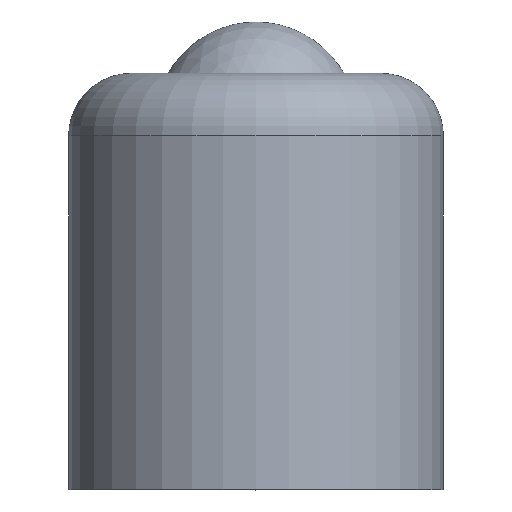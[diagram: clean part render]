
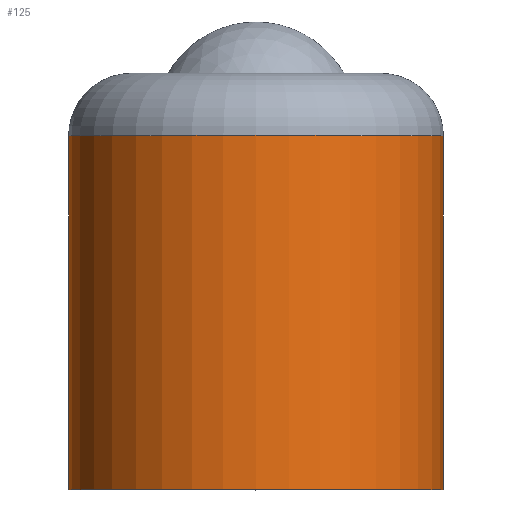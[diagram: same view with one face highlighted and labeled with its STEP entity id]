
A CAD part, top view. The second image highlights one B-rep face of the part: STEP entity #125.
In plain terms, the highlighted cylindrical face has radius 9 mm (diameter 18 mm), a full revolution.
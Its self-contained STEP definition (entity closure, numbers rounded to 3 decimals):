
#15=CYLINDRICAL_SURFACE('',#148,9.);
#32=FACE_BOUND('',#62,.T.);
#42=FACE_OUTER_BOUND('',#61,.T.);
#61=EDGE_LOOP('',(#111));
#62=EDGE_LOOP('',(#112));
#67=CIRCLE('',#135,9.);
#73=CIRCLE('',#147,9.);
#77=VERTEX_POINT('',#204);
#83=VERTEX_POINT('',#222);
#87=EDGE_CURVE('',#77,#77,#67,.T.);
#93=EDGE_CURVE('',#83,#83,#73,.T.);
#111=ORIENTED_EDGE('',*,*,#93,.T.);
#112=ORIENTED_EDGE('',*,*,#87,.F.);
#125=ADVANCED_FACE('',(#42,#32),#15,.T.);
#135=AXIS2_PLACEMENT_3D('',#205,#164,#165);
#147=AXIS2_PLACEMENT_3D('',#223,#188,#189);
#148=AXIS2_PLACEMENT_3D('',#224,#190,#191);
#164=DIRECTION('center_axis',(0.,-1.,0.));
#165=DIRECTION('ref_axis',(1.,0.,0.));
#188=DIRECTION('center_axis',(0.,-1.,0.));
#189=DIRECTION('ref_axis',(1.,0.,0.));
#190=DIRECTION('center_axis',(0.,-1.,0.));
#191=DIRECTION('ref_axis',(1.,0.,0.));
#204=CARTESIAN_POINT('',(9.,0.,0.));
#205=CARTESIAN_POINT('Origin',(0.,0.,0.));
#222=CARTESIAN_POINT('',(9.,17.,0.));
#223=CARTESIAN_POINT('Origin',(0.,17.,0.));
#224=CARTESIAN_POINT('Origin',(0.,8.5,0.));
